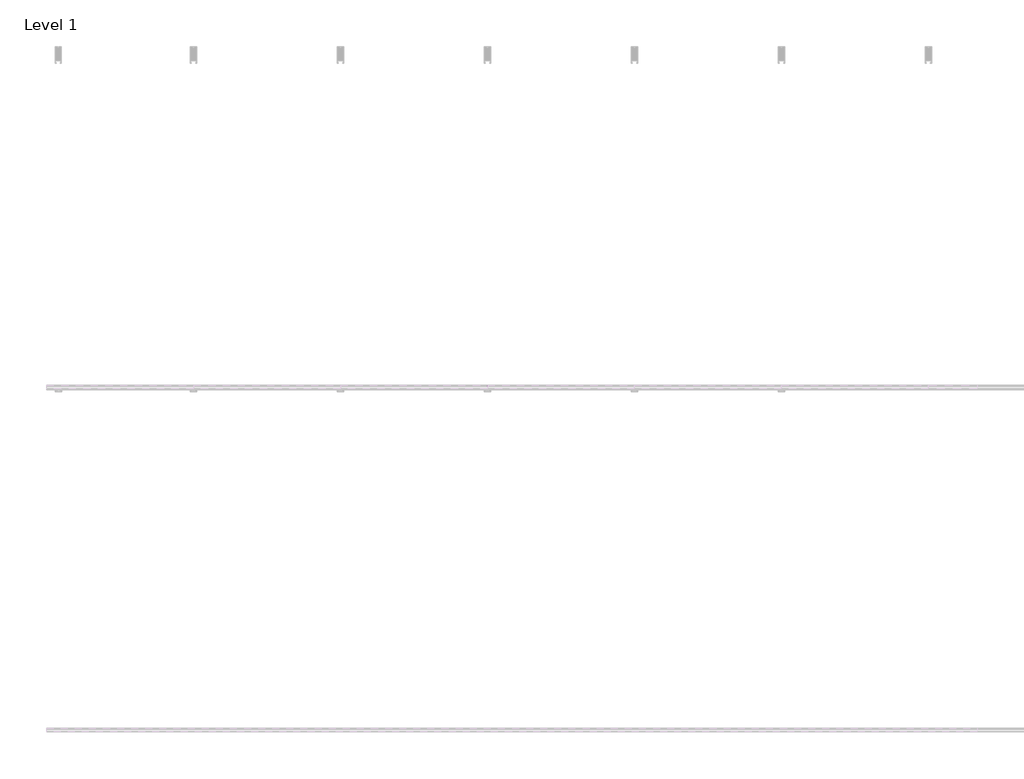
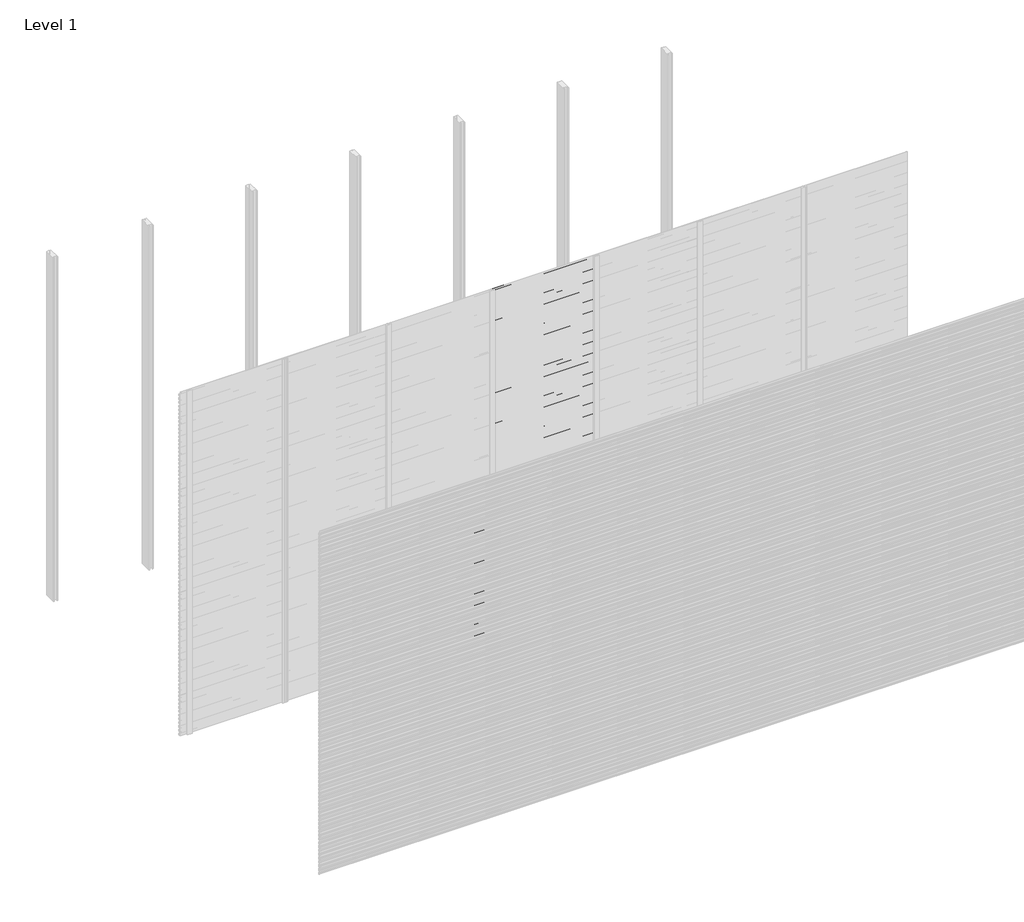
# One storey, part 55 of 96: 77 proxies.
"""IFC4 building model written with IfcOpenShell, lengths in millimetres."""

import ifcopenshell
import ifcopenshell.guid

model = None  # the IFC model being written
_history = None  # IfcOwnerHistory: only IFC2X3 demands one
_inside = {}  # id of a spatial element -> (the spatial element, [elements in it])
_under = {}  # id of a project, library or spatial element -> (it, [spatial elements below it])
_declared = {}  # id of a project -> (the project, [libraries it declares])
_typed = {}  # id of a type object -> (the type object, [elements of that type])
_made_of = {}  # id of a material, layer set ... -> (it, [elements and type objects made of it])


def new_model(schema):
    """Start an empty IFC model of exactly this schema.

    Asked for "IFC4X3", IfcOpenShell would pick the latest addendum, in which some entities
    have other attributes; the version numbers below select the first issue.
    IFC2X3 requires an IfcOwnerHistory on every rooted entity: one is made here for all.
    """
    global model, _history
    if schema == "IFC4X3":
        model = ifcopenshell.file(schema_version=(4, 3, 0, 0))
    else:
        model = ifcopenshell.file(schema=schema)
    _inside.clear()
    _under.clear()
    _declared.clear()
    _typed.clear()
    _made_of.clear()
    _history = None
    if model.schema == "IFC2X3":
        org = make("IfcOrganization", Name="unknown")
        user = make(
            "IfcPersonAndOrganization",
            ThePerson=make("IfcPerson", FamilyName="unknown"),
            TheOrganization=org,
        )
        app = make(
            "IfcApplication",
            ApplicationDeveloper=org,
            Version="unknown",
            ApplicationFullName="unknown",
            ApplicationIdentifier="unknown",
        )
        _history = make(
            "IfcOwnerHistory",
            OwningUser=user,
            OwningApplication=app,
            ChangeAction="ADDED",
            CreationDate=0,
        )
    return model


def make(cls, **values):
    """One entity of the class cls with the attributes given. An attribute that is None is left unset."""
    return model.create_entity(
        cls, **{name: value for name, value in values.items() if value is not None}
    )


def rooted(cls, **values):
    """An entity with a GlobalId (a new one), such as an element, a storey or a relation."""
    return make(cls, GlobalId=ifcopenshell.guid.new(), OwnerHistory=_history, **values)


def si_unit(unit_type, name, prefix=None):
    """IfcSIUnit, for example si_unit("LENGTHUNIT", "METRE", prefix="MILLI")."""
    return make("IfcSIUnit", UnitType=unit_type, Prefix=prefix, Name=name)


def assignment(units):
    """IfcUnitAssignment: the units of a project."""
    return None if units is None else make("IfcUnitAssignment", Units=units)


def point(xyz):
    """IfcCartesianPoint."""
    return None if xyz is None else make("IfcCartesianPoint", Coordinates=xyz)


def direction(xyz):
    """IfcDirection."""
    return None if xyz is None else make("IfcDirection", DirectionRatios=xyz)


def frame(location, z_axis=None, x_axis=None):
    """IfcAxis2Placement3D, a coordinate frame: its origin and axes. An axis left out is left unset."""
    return make(
        "IfcAxis2Placement3D",
        Location=point(location),
        Axis=direction(z_axis),
        RefDirection=direction(x_axis),
    )


def origin():
    """The frame at (0, 0, 0) with its axes left unset."""
    return frame((0.0, 0.0, 0.0))


def place(relative_to, where):
    """IfcLocalPlacement: puts the frame where relative to a parent placement (None: the world)."""
    return make(
        "IfcLocalPlacement", PlacementRelTo=relative_to, RelativePlacement=where
    )


def context(
    kind, dimensions, precision=None, world=None, true_north=None, identifier=None
):
    """IfcGeometricRepresentationContext, for example the 3D "Model" context."""
    return make(
        "IfcGeometricRepresentationContext",
        ContextIdentifier=identifier,
        ContextType=kind,
        CoordinateSpaceDimension=dimensions,
        Precision=precision,
        WorldCoordinateSystem=world,
        TrueNorth=true_north,
    )


def project(units=None, contexts=None):
    """IfcProject with its units and contexts."""
    return rooted(
        "IfcProject",
        Name="project",
        RepresentationContexts=contexts,
        UnitsInContext=assignment(units),
    )


def spatial(cls, under=None, at=None, **own):
    """A site, building, storey or space (cls), placed at a placement, below another one or the project."""
    s = rooted(cls, ObjectPlacement=at, **own)
    if under is not None:
        _under.setdefault(under.id(), (under, []))[1].append(s)
    return s


def polyline(points):
    """IfcPolyline through the points."""
    return make("IfcPolyline", Points=[point(p) for p in points])


def outline(outer, holes=None, kind="AREA"):
    """IfcArbitraryClosedProfileDef: a profile drawn as a closed curve; with holes, ...WithVoids."""
    if holes is None:
        return make("IfcArbitraryClosedProfileDef", ProfileType=kind, OuterCurve=outer)
    return make(
        "IfcArbitraryProfileDefWithVoids",
        ProfileType=kind,
        OuterCurve=outer,
        InnerCurves=holes,
    )


def extrude(swept, where, along, depth):
    """IfcExtrudedAreaSolid: the profile swept, set in the frame where, extruded along a direction by depth."""
    return make(
        "IfcExtrudedAreaSolid",
        SweptArea=swept,
        Position=where,
        ExtrudedDirection=direction(along),
        Depth=depth,
    )


def shape(context_of_items, identifier, shape_type, items):
    """IfcShapeRepresentation: the items that make up one representation, for example the "Body"."""
    return make(
        "IfcShapeRepresentation",
        ContextOfItems=context_of_items,
        RepresentationIdentifier=identifier,
        RepresentationType=shape_type,
        Items=items,
    )


def made_of(thing, what):
    """Note that an element or type object is made of a material, layer set ...; save() writes the relation."""
    if what is not None:
        _made_of.setdefault(what.id(), (what, []))[1].append(thing)
    return thing


def element(
    cls,
    number,
    at=None,
    inside=None,
    cuts=None,
    type_object=None,
    material=None,
    context=None,
    identifier="Body",
    shape_type=None,
    held_by="IfcProductDefinitionShape",
    body=None,
    shapes=None,
    **own,
):
    """One element of the class cls, such as IfcWall. Its Tag is "e" and its number.

    at: its placement. inside: the storey or other place that contains it. cuts: it is an
    opening in that element (IfcRelVoidsElement). A single representation is given by context,
    identifier, shape_type and body (its items); several are given by shapes. held_by: the class
    of the entity that holds the representations. save() writes the other relations.
    """
    e = rooted(cls, Tag="e%d" % number, ObjectPlacement=at, **own)
    if body is not None:
        shapes = [shape(context, identifier, shape_type, body)]
    if shapes is not None:
        e.Representation = make(held_by, Representations=shapes)
    if inside is not None:
        _inside.setdefault(inside.id(), (inside, []))[1].append(e)
    if cuts is not None:
        rooted(
            "IfcRelVoidsElement", RelatingBuildingElement=cuts, RelatedOpeningElement=e
        )
    if type_object is not None:
        _typed.setdefault(type_object.id(), (type_object, []))[1].append(e)
    return made_of(e, material)


def aggregate(whole, parts):
    """IfcRelAggregates: a whole, such as a stair, and the parts it consists of."""
    return rooted("IfcRelAggregates", RelatingObject=whole, RelatedObjects=parts)


def save(model, path):
    """Write the relations noted so far, then the file.

    IfcRelAggregates (storeys below a building ...), IfcRelContainedInSpatialStructure (elements
    in a storey), IfcRelDefinesByType, IfcRelAssociatesMaterial and IfcRelDeclares: one each for
    every whole, place, type object, material and project.
    """
    for whole, parts in _under.values():
        aggregate(whole, parts)
    for where, things in _inside.values():
        rooted(
            "IfcRelContainedInSpatialStructure",
            RelatedElements=things,
            RelatingStructure=where,
        )
    for kind, things in _typed.values():
        rooted("IfcRelDefinesByType", RelatedObjects=things, RelatingType=kind)
    for what, things in _made_of.values():
        rooted("IfcRelAssociatesMaterial", RelatedObjects=things, RelatingMaterial=what)
    for by, libraries in _declared.values():
        rooted("IfcRelDeclares", RelatingContext=by, RelatedDefinitions=libraries)
    model.write(path)


model = new_model("IFC4")

# Units and contexts
model_context = context("Model", 3, world=origin())
ifc_project = project(units=[si_unit("LENGTHUNIT", "METRE", prefix="MILLI")], contexts=[model_context])

# Site, building, storey
site = spatial("IfcSite", under=ifc_project)
building = spatial("IfcBuilding", under=site)
storey = spatial("IfcBuildingStorey", under=building, Name="Level 1", Elevation=0.0)

# Proxies
placement = place(None, origin())
element("IfcBuildingElementProxy", 1, Name="Wall Sweeps", at=placement, inside=storey, context=model_context, shape_type="SweptSolid", body=[
    extrude(outline(polyline([(-23977.6, 907.1655033), (-23977.6, 892.8779188), (-23982.4114965, 890.1), (-23982.4114965, 891.3701706), (-23978.85, 893.4264016), (-23978.85, 906.4437382), (-23998.0, 917.5000799), (-23998.0, 932.4), (-23996.75, 932.4), (-23996.75, 918.2217609), (-23977.6, 907.1655033)])), frame((1714.2857143, 0.0, 0.0), z_axis=(1.0, 0.0, 0.0), x_axis=(0.0, 1.0, 0.0)), (0.0, 0.0, 1.0), 857.1428571),
])
element("IfcBuildingElementProxy", 2, Name="Wall Sweeps", at=placement, inside=storey, context=model_context, shape_type="SweptSolid", body=[
    extrude(outline(polyline([(-23977.6, 873.8655033), (-23977.6, 859.5779188), (-23982.4114965, 856.8), (-23982.4114965, 858.0701706), (-23978.85, 860.1264016), (-23978.85, 873.1437382), (-23998.0, 884.2000799), (-23998.0, 899.1), (-23996.75, 899.1), (-23996.75, 884.9217609), (-23977.6, 873.8655033)])), frame((1714.2857143, 0.0, 0.0), z_axis=(1.0, 0.0, 0.0), x_axis=(0.0, 1.0, 0.0)), (0.0, 0.0, 1.0), 857.1428571),
])
element("IfcBuildingElementProxy", 3, Name="Wall Sweeps", at=placement, inside=storey, context=model_context, shape_type="SweptSolid", body=[
    extrude(outline(polyline([(-23977.6, 840.5655033), (-23977.6, 826.2779188), (-23982.4114965, 823.5), (-23982.4114965, 824.7701706), (-23978.85, 826.8264016), (-23978.85, 839.8437382), (-23998.0, 850.9000799), (-23998.0, 865.8), (-23996.75, 865.8), (-23996.75, 851.6217609), (-23977.6, 840.5655033)])), frame((1714.2857143, 0.0, 0.0), z_axis=(1.0, 0.0, 0.0), x_axis=(0.0, 1.0, 0.0)), (0.0, 0.0, 1.0), 857.1428571),
])
element("IfcBuildingElementProxy", 4, Name="Wall Sweeps", at=placement, inside=storey, context=model_context, shape_type="SweptSolid", body=[
    extrude(outline(polyline([(-23977.6, 807.2655033), (-23977.6, 792.9779188), (-23982.4114965, 790.2), (-23982.4114965, 791.4701706), (-23978.85, 793.5264016), (-23978.85, 806.5437382), (-23998.0, 817.6000799), (-23998.0, 832.5), (-23996.75, 832.5), (-23996.75, 818.3217609), (-23977.6, 807.2655033)])), frame((1714.2857143, 0.0, 0.0), z_axis=(1.0, 0.0, 0.0), x_axis=(0.0, 1.0, 0.0)), (0.0, 0.0, 1.0), 857.1428571),
])
element("IfcBuildingElementProxy", 5, Name="Wall Sweeps", at=placement, inside=storey, context=model_context, shape_type="SweptSolid", body=[
    extrude(outline(polyline([(-23977.6, 773.9655033), (-23977.6, 759.6779188), (-23982.4114965, 756.9), (-23982.4114965, 758.1701706), (-23978.85, 760.2264016), (-23978.85, 773.2437382), (-23998.0, 784.3000799), (-23998.0, 799.2), (-23996.75, 799.2), (-23996.75, 785.0217609), (-23977.6, 773.9655033)])), frame((1714.2857143, 0.0, 0.0), z_axis=(1.0, 0.0, 0.0), x_axis=(0.0, 1.0, 0.0)), (0.0, 0.0, 1.0), 857.1428571),
])
element("IfcBuildingElementProxy", 6, Name="Wall Sweeps", at=placement, inside=storey, context=model_context, shape_type="SweptSolid", body=[
    extrude(outline(polyline([(-23977.6, 740.6655033), (-23977.6, 726.3779188), (-23982.4114965, 723.6), (-23982.4114965, 724.8701706), (-23978.85, 726.9264016), (-23978.85, 739.9437382), (-23998.0, 751.0000799), (-23998.0, 765.9), (-23996.75, 765.9), (-23996.75, 751.7217609), (-23977.6, 740.6655033)])), frame((1714.2857143, 0.0, 0.0), z_axis=(1.0, 0.0, 0.0), x_axis=(0.0, 1.0, 0.0)), (0.0, 0.0, 1.0), 857.1428571),
])
element("IfcBuildingElementProxy", 7, Name="Wall Sweeps", at=placement, inside=storey, context=model_context, shape_type="SweptSolid", body=[
    extrude(outline(polyline([(-23977.6, 707.3655033), (-23977.6, 693.0779188), (-23982.4114965, 690.3), (-23982.4114965, 691.5701706), (-23978.85, 693.6264016), (-23978.85, 706.6437382), (-23998.0, 717.7000799), (-23998.0, 732.6), (-23996.75, 732.6), (-23996.75, 718.4217609), (-23977.6, 707.3655033)])), frame((1714.2857143, 0.0, 0.0), z_axis=(1.0, 0.0, 0.0), x_axis=(0.0, 1.0, 0.0)), (0.0, 0.0, 1.0), 857.1428571),
])
element("IfcBuildingElementProxy", 8, Name="Wall Sweeps", at=placement, inside=storey, context=model_context, shape_type="SweptSolid", body=[
    extrude(outline(polyline([(-23977.6, 674.0655033), (-23977.6, 659.7779188), (-23982.4114965, 657.0), (-23982.4114965, 658.2701706), (-23978.85, 660.3264016), (-23978.85, 673.3437382), (-23998.0, 684.4000799), (-23998.0, 699.3), (-23996.75, 699.3), (-23996.75, 685.1217609), (-23977.6, 674.0655033)])), frame((1714.2857143, 0.0, 0.0), z_axis=(1.0, 0.0, 0.0), x_axis=(0.0, 1.0, 0.0)), (0.0, 0.0, 1.0), 857.1428571),
])
element("IfcBuildingElementProxy", 9, Name="Wall Sweeps", at=placement, inside=storey, context=model_context, shape_type="SweptSolid", body=[
    extrude(outline(polyline([(-23977.6, 640.7655033), (-23977.6, 626.4779188), (-23982.4114965, 623.7), (-23982.4114965, 624.9701706), (-23978.85, 627.0264016), (-23978.85, 640.0437382), (-23998.0, 651.1000799), (-23998.0, 666.0), (-23996.75, 666.0), (-23996.75, 651.8217609), (-23977.6, 640.7655033)])), frame((1714.2857143, 0.0, 0.0), z_axis=(1.0, 0.0, 0.0), x_axis=(0.0, 1.0, 0.0)), (0.0, 0.0, 1.0), 857.1428571),
])
element("IfcBuildingElementProxy", 10, Name="Wall Sweeps", at=placement, inside=storey, context=model_context, shape_type="SweptSolid", body=[
    extrude(outline(polyline([(-23977.6, 607.4655033), (-23977.6, 593.1779188), (-23982.4114965, 590.4), (-23982.4114965, 591.6701706), (-23978.85, 593.7264016), (-23978.85, 606.7437382), (-23998.0, 617.8000799), (-23998.0, 632.7), (-23996.75, 632.7), (-23996.75, 618.5217609), (-23977.6, 607.4655033)])), frame((1714.2857143, 0.0, 0.0), z_axis=(1.0, 0.0, 0.0), x_axis=(0.0, 1.0, 0.0)), (0.0, 0.0, 1.0), 857.1428571),
])
element("IfcBuildingElementProxy", 11, Name="Wall Sweeps", at=placement, inside=storey, context=model_context, shape_type="SweptSolid", body=[
    extrude(outline(polyline([(-23977.6, 574.1655033), (-23977.6, 559.8779188), (-23982.4114965, 557.1), (-23982.4114965, 558.3701706), (-23978.85, 560.4264016), (-23978.85, 573.4437382), (-23998.0, 584.5000799), (-23998.0, 599.4), (-23996.75, 599.4), (-23996.75, 585.2217609), (-23977.6, 574.1655033)])), frame((1714.2857143, 0.0, 0.0), z_axis=(1.0, 0.0, 0.0), x_axis=(0.0, 1.0, 0.0)), (0.0, 0.0, 1.0), 857.1428571),
])
element("IfcBuildingElementProxy", 12, Name="Wall Sweeps", at=placement, inside=storey, context=model_context, shape_type="SweptSolid", body=[
    extrude(outline(polyline([(-23977.6, 540.8655033), (-23977.6, 526.5779188), (-23982.4114965, 523.8), (-23982.4114965, 525.0701706), (-23978.85, 527.1264016), (-23978.85, 540.1437382), (-23998.0, 551.2000799), (-23998.0, 566.1), (-23996.75, 566.1), (-23996.75, 551.9217609), (-23977.6, 540.8655033)])), frame((1714.2857143, 0.0, 0.0), z_axis=(1.0, 0.0, 0.0), x_axis=(0.0, 1.0, 0.0)), (0.0, 0.0, 1.0), 857.1428571),
])
element("IfcBuildingElementProxy", 13, Name="Wall Sweeps", at=placement, inside=storey, context=model_context, shape_type="SweptSolid", body=[
    extrude(outline(polyline([(-23977.6, 507.5655033), (-23977.6, 493.2779188), (-23982.4114965, 490.5), (-23982.4114965, 491.7701706), (-23978.85, 493.8264016), (-23978.85, 506.8437382), (-23998.0, 517.9000799), (-23998.0, 532.8), (-23996.75, 532.8), (-23996.75, 518.6217609), (-23977.6, 507.5655033)])), frame((1714.2857143, 0.0, 0.0), z_axis=(1.0, 0.0, 0.0), x_axis=(0.0, 1.0, 0.0)), (0.0, 0.0, 1.0), 857.1428571),
])
element("IfcBuildingElementProxy", 14, Name="Wall Sweeps", at=placement, inside=storey, context=model_context, shape_type="SweptSolid", body=[
    extrude(outline(polyline([(-23977.6, 474.2655033), (-23977.6, 459.9779188), (-23982.4114965, 457.2), (-23982.4114965, 458.4701706), (-23978.85, 460.5264016), (-23978.85, 473.5437382), (-23998.0, 484.6000799), (-23998.0, 499.5), (-23996.75, 499.5), (-23996.75, 485.3217609), (-23977.6, 474.2655033)])), frame((1714.2857143, 0.0, 0.0), z_axis=(1.0, 0.0, 0.0), x_axis=(0.0, 1.0, 0.0)), (0.0, 0.0, 1.0), 857.1428571),
])
element("IfcBuildingElementProxy", 15, Name="Wall Sweeps", at=placement, inside=storey, context=model_context, shape_type="SweptSolid", body=[
    extrude(outline(polyline([(-23977.6, 440.9655033), (-23977.6, 426.6779188), (-23982.4114965, 423.9), (-23982.4114965, 425.1701706), (-23978.85, 427.2264016), (-23978.85, 440.2437382), (-23998.0, 451.3000799), (-23998.0, 466.2), (-23996.75, 466.2), (-23996.75, 452.0217609), (-23977.6, 440.9655033)])), frame((1714.2857143, 0.0, 0.0), z_axis=(1.0, 0.0, 0.0), x_axis=(0.0, 1.0, 0.0)), (0.0, 0.0, 1.0), 857.1428571),
])
element("IfcBuildingElementProxy", 16, Name="Wall Sweeps", at=placement, inside=storey, context=model_context, shape_type="SweptSolid", body=[
    extrude(outline(polyline([(-23977.6, 407.6655033), (-23977.6, 393.3779188), (-23982.4114965, 390.6), (-23982.4114965, 391.8701706), (-23978.85, 393.9264016), (-23978.85, 406.9437382), (-23998.0, 418.0000799), (-23998.0, 432.9), (-23996.75, 432.9), (-23996.75, 418.7217609), (-23977.6, 407.6655033)])), frame((1714.2857143, 0.0, 0.0), z_axis=(1.0, 0.0, 0.0), x_axis=(0.0, 1.0, 0.0)), (0.0, 0.0, 1.0), 857.1428571),
])
element("IfcBuildingElementProxy", 17, Name="Wall Sweeps", at=placement, inside=storey, context=model_context, shape_type="SweptSolid", body=[
    extrude(outline(polyline([(-23977.6, 374.3655033), (-23977.6, 360.0779188), (-23982.4114965, 357.3), (-23982.4114965, 358.5701706), (-23978.85, 360.6264016), (-23978.85, 373.6437382), (-23998.0, 384.7000799), (-23998.0, 399.6), (-23996.75, 399.6), (-23996.75, 385.4217609), (-23977.6, 374.3655033)])), frame((1714.2857143, 0.0, 0.0), z_axis=(1.0, 0.0, 0.0), x_axis=(0.0, 1.0, 0.0)), (0.0, 0.0, 1.0), 857.1428571),
])
element("IfcBuildingElementProxy", 18, Name="Wall Sweeps", at=placement, inside=storey, context=model_context, shape_type="SweptSolid", body=[
    extrude(outline(polyline([(-23977.6, 341.0655033), (-23977.6, 326.7779188), (-23982.4114965, 324.0), (-23982.4114965, 325.2701706), (-23978.85, 327.3264016), (-23978.85, 340.3437382), (-23998.0, 351.4000799), (-23998.0, 366.3), (-23996.75, 366.3), (-23996.75, 352.1217609), (-23977.6, 341.0655033)])), frame((1714.2857143, 0.0, 0.0), z_axis=(1.0, 0.0, 0.0), x_axis=(0.0, 1.0, 0.0)), (0.0, 0.0, 1.0), 857.1428571),
])
element("IfcBuildingElementProxy", 19, Name="Wall Sweeps", at=placement, inside=storey, context=model_context, shape_type="SweptSolid", body=[
    extrude(outline(polyline([(-23977.6, 307.7655033), (-23977.6, 293.4779188), (-23982.4114965, 290.7), (-23982.4114965, 291.9701706), (-23978.85, 294.0264016), (-23978.85, 307.0437382), (-23998.0, 318.1000799), (-23998.0, 333.0), (-23996.75, 333.0), (-23996.75, 318.8217609), (-23977.6, 307.7655033)])), frame((1714.2857143, 0.0, 0.0), z_axis=(1.0, 0.0, 0.0), x_axis=(0.0, 1.0, 0.0)), (0.0, 0.0, 1.0), 857.1428571),
])
element("IfcBuildingElementProxy", 20, Name="Wall Sweeps", at=placement, inside=storey, context=model_context, shape_type="SweptSolid", body=[
    extrude(outline(polyline([(-23977.6, 274.4655033), (-23977.6, 260.1779188), (-23982.4114965, 257.4), (-23982.4114965, 258.6701706), (-23978.85, 260.7264016), (-23978.85, 273.7437382), (-23998.0, 284.8000799), (-23998.0, 299.7), (-23996.75, 299.7), (-23996.75, 285.5217609), (-23977.6, 274.4655033)])), frame((1714.2857143, 0.0, 0.0), z_axis=(1.0, 0.0, 0.0), x_axis=(0.0, 1.0, 0.0)), (0.0, 0.0, 1.0), 857.1428571),
])
element("IfcBuildingElementProxy", 21, Name="Wall Sweeps", at=placement, inside=storey, context=model_context, shape_type="SweptSolid", body=[
    extrude(outline(polyline([(-23977.6, 241.1655033), (-23977.6, 226.8779188), (-23982.4114965, 224.1), (-23982.4114965, 225.3701706), (-23978.85, 227.4264016), (-23978.85, 240.4437382), (-23998.0, 251.5000799), (-23998.0, 266.4), (-23996.75, 266.4), (-23996.75, 252.2217609), (-23977.6, 241.1655033)])), frame((1714.2857143, 0.0, 0.0), z_axis=(1.0, 0.0, 0.0), x_axis=(0.0, 1.0, 0.0)), (0.0, 0.0, 1.0), 857.1428571),
])
element("IfcBuildingElementProxy", 22, Name="Wall Sweeps", at=placement, inside=storey, context=model_context, shape_type="SweptSolid", body=[
    extrude(outline(polyline([(-23977.6, 207.8655033), (-23977.6, 193.5779188), (-23982.4114965, 190.8), (-23982.4114965, 192.0701706), (-23978.85, 194.1264016), (-23978.85, 207.1437382), (-23998.0, 218.2000799), (-23998.0, 233.1), (-23996.75, 233.1), (-23996.75, 218.9217609), (-23977.6, 207.8655033)])), frame((1714.2857143, 0.0, 0.0), z_axis=(1.0, 0.0, 0.0), x_axis=(0.0, 1.0, 0.0)), (0.0, 0.0, 1.0), 857.1428571),
])
element("IfcBuildingElementProxy", 23, Name="Wall Sweeps", at=placement, inside=storey, context=model_context, shape_type="SweptSolid", body=[
    extrude(outline(polyline([(-23977.6, 174.5655033), (-23977.6, 160.2779188), (-23982.4114965, 157.5), (-23982.4114965, 158.7701706), (-23978.85, 160.8264016), (-23978.85, 173.8437382), (-23998.0, 184.9000799), (-23998.0, 199.8), (-23996.75, 199.8), (-23996.75, 185.6217609), (-23977.6, 174.5655033)])), frame((1714.2857143, 0.0, 0.0), z_axis=(1.0, 0.0, 0.0), x_axis=(0.0, 1.0, 0.0)), (0.0, 0.0, 1.0), 857.1428571),
])
element("IfcBuildingElementProxy", 24, Name="Wall Sweeps", at=placement, inside=storey, context=model_context, shape_type="SweptSolid", body=[
    extrude(outline(polyline([(-23977.6, 141.2655033), (-23977.6, 126.9779188), (-23982.4114965, 124.2), (-23982.4114965, 125.4701706), (-23978.85, 127.5264016), (-23978.85, 140.5437382), (-23998.0, 151.6000799), (-23998.0, 166.5), (-23996.75, 166.5), (-23996.75, 152.3217609), (-23977.6, 141.2655033)])), frame((1714.2857143, 0.0, 0.0), z_axis=(1.0, 0.0, 0.0), x_axis=(0.0, 1.0, 0.0)), (0.0, 0.0, 1.0), 857.1428571),
])
element("IfcBuildingElementProxy", 25, Name="Wall Sweeps", at=placement, inside=storey, context=model_context, shape_type="SweptSolid", body=[
    extrude(outline(polyline([(-23977.6, 107.9655033), (-23977.6, 93.6779188), (-23982.4114965, 90.9), (-23982.4114965, 92.1701706), (-23978.85, 94.2264016), (-23978.85, 107.2437382), (-23998.0, 118.3000799), (-23998.0, 133.2), (-23996.75, 133.2), (-23996.75, 119.0217609), (-23977.6, 107.9655033)])), frame((1714.2857143, 0.0, 0.0), z_axis=(1.0, 0.0, 0.0), x_axis=(0.0, 1.0, 0.0)), (0.0, 0.0, 1.0), 857.1428571),
])
element("IfcBuildingElementProxy", 26, Name="Wall Sweeps", at=placement, inside=storey, context=model_context, shape_type="SweptSolid", body=[
    extrude(outline(polyline([(-23977.6, 74.6655033), (-23977.6, 60.3779188), (-23982.4114965, 57.6), (-23982.4114965, 58.8701706), (-23978.85, 60.9264016), (-23978.85, 73.9437382), (-23998.0, 85.0000799), (-23998.0, 99.9), (-23996.75, 99.9), (-23996.75, 85.7217609), (-23977.6, 74.6655033)])), frame((1714.2857143, 0.0, 0.0), z_axis=(1.0, 0.0, 0.0), x_axis=(0.0, 1.0, 0.0)), (0.0, 0.0, 1.0), 857.1428571),
])
element("IfcBuildingElementProxy", 27, Name="Wall Sweeps", at=placement, inside=storey, context=model_context, shape_type="SweptSolid", body=[
    extrude(outline(polyline([(-23977.6, 41.3655033), (-23977.6, 27.0779188), (-23982.4114965, 24.3), (-23982.4114965, 25.5701706), (-23978.85, 27.6264016), (-23978.85, 40.6437382), (-23998.0, 51.7000799), (-23998.0, 66.6), (-23996.75, 66.6), (-23996.75, 52.4217609), (-23977.6, 41.3655033)])), frame((1714.2857143, 0.0, 0.0), z_axis=(1.0, 0.0, 0.0), x_axis=(0.0, 1.0, 0.0)), (0.0, 0.0, 1.0), 857.1428571),
])
element("IfcBuildingElementProxy", 28, Name="Wall Sweeps", at=placement, inside=storey, context=model_context, shape_type="SweptSolid", body=[
    extrude(outline(polyline([(-23977.6, 8.0655033), (-23977.6, -6.2220812), (-23982.4114965, -9.0), (-23982.4114965, -7.7298294), (-23978.85, -5.6735984), (-23978.85, 7.3437382), (-23998.0, 18.4000799), (-23998.0, 33.3), (-23996.75, 33.3), (-23996.75, 19.1217609), (-23977.6, 8.0655033)])), frame((1714.2857143, 0.0, 0.0), z_axis=(1.0, 0.0, 0.0), x_axis=(0.0, 1.0, 0.0)), (0.0, 0.0, 1.0), 857.1428571),
])
element("IfcBuildingElementProxy", 29, Name="Wall Sweeps", at=placement, inside=storey, context=model_context, shape_type="SweptSolid", body=[
    extrude(outline(polyline([(-23977.6, 2971.7655033), (-23977.6, 2957.4779188), (-23982.4114965, 2954.7), (-23982.4114965, 2955.9701706), (-23978.85, 2958.0264016), (-23978.85, 2971.0437382), (-23998.0, 2982.1000799), (-23998.0, 2997.0), (-23996.75, 2997.0), (-23996.75, 2982.8217609), (-23977.6, 2971.7655033)])), frame((2571.4285714, 0.0, 0.0), z_axis=(1.0, 0.0, 0.0), x_axis=(0.0, 1.0, 0.0)), (0.0, 0.0, 1.0), 857.1428571),
])
element("IfcBuildingElementProxy", 30, Name="Wall Sweeps", at=placement, inside=storey, context=model_context, shape_type="SweptSolid", body=[
    extrude(outline(polyline([(-23977.6, 2938.4655033), (-23977.6, 2924.1779188), (-23982.4114965, 2921.4), (-23982.4114965, 2922.6701706), (-23978.85, 2924.7264016), (-23978.85, 2937.7437382), (-23998.0, 2948.8000799), (-23998.0, 2963.7), (-23996.75, 2963.7), (-23996.75, 2949.5217609), (-23977.6, 2938.4655033)])), frame((2571.4285714, 0.0, 0.0), z_axis=(1.0, 0.0, 0.0), x_axis=(0.0, 1.0, 0.0)), (0.0, 0.0, 1.0), 857.1428571),
])
element("IfcBuildingElementProxy", 31, Name="Wall Sweeps", at=placement, inside=storey, context=model_context, shape_type="SweptSolid", body=[
    extrude(outline(polyline([(-23977.6, 2905.1655033), (-23977.6, 2890.8779188), (-23982.4114965, 2888.1), (-23982.4114965, 2889.3701706), (-23978.85, 2891.4264016), (-23978.85, 2904.4437382), (-23998.0, 2915.5000799), (-23998.0, 2930.4), (-23996.75, 2930.4), (-23996.75, 2916.2217609), (-23977.6, 2905.1655033)])), frame((2571.4285714, 0.0, 0.0), z_axis=(1.0, 0.0, 0.0), x_axis=(0.0, 1.0, 0.0)), (0.0, 0.0, 1.0), 857.1428571),
])
element("IfcBuildingElementProxy", 32, Name="Wall Sweeps", at=placement, inside=storey, context=model_context, shape_type="SweptSolid", body=[
    extrude(outline(polyline([(-23977.6, 2871.8655033), (-23977.6, 2857.5779188), (-23982.4114965, 2854.8), (-23982.4114965, 2856.0701706), (-23978.85, 2858.1264016), (-23978.85, 2871.1437382), (-23998.0, 2882.2000799), (-23998.0, 2897.1), (-23996.75, 2897.1), (-23996.75, 2882.9217609), (-23977.6, 2871.8655033)])), frame((2571.4285714, 0.0, 0.0), z_axis=(1.0, 0.0, 0.0), x_axis=(0.0, 1.0, 0.0)), (0.0, 0.0, 1.0), 857.1428571),
])
element("IfcBuildingElementProxy", 33, Name="Wall Sweeps", at=placement, inside=storey, context=model_context, shape_type="SweptSolid", body=[
    extrude(outline(polyline([(-23977.6, 2838.5655033), (-23977.6, 2824.2779188), (-23982.4114965, 2821.5), (-23982.4114965, 2822.7701706), (-23978.85, 2824.8264016), (-23978.85, 2837.8437382), (-23998.0, 2848.9000799), (-23998.0, 2863.8), (-23996.75, 2863.8), (-23996.75, 2849.6217609), (-23977.6, 2838.5655033)])), frame((2571.4285714, 0.0, 0.0), z_axis=(1.0, 0.0, 0.0), x_axis=(0.0, 1.0, 0.0)), (0.0, 0.0, 1.0), 857.1428571),
])
element("IfcBuildingElementProxy", 34, Name="Wall Sweeps", at=placement, inside=storey, context=model_context, shape_type="SweptSolid", body=[
    extrude(outline(polyline([(-23977.6, 2805.2655033), (-23977.6, 2790.9779188), (-23982.4114965, 2788.2), (-23982.4114965, 2789.4701706), (-23978.85, 2791.5264016), (-23978.85, 2804.5437382), (-23998.0, 2815.6000799), (-23998.0, 2830.5), (-23996.75, 2830.5), (-23996.75, 2816.3217609), (-23977.6, 2805.2655033)])), frame((2571.4285714, 0.0, 0.0), z_axis=(1.0, 0.0, 0.0), x_axis=(0.0, 1.0, 0.0)), (0.0, 0.0, 1.0), 857.1428571),
])
element("IfcBuildingElementProxy", 35, Name="Wall Sweeps", at=placement, inside=storey, context=model_context, shape_type="SweptSolid", body=[
    extrude(outline(polyline([(-23977.6, 2771.9655033), (-23977.6, 2757.6779188), (-23982.4114965, 2754.9), (-23982.4114965, 2756.1701706), (-23978.85, 2758.2264016), (-23978.85, 2771.2437382), (-23998.0, 2782.3000799), (-23998.0, 2797.2), (-23996.75, 2797.2), (-23996.75, 2783.0217609), (-23977.6, 2771.9655033)])), frame((2571.4285714, 0.0, 0.0), z_axis=(1.0, 0.0, 0.0), x_axis=(0.0, 1.0, 0.0)), (0.0, 0.0, 1.0), 857.1428571),
])
element("IfcBuildingElementProxy", 36, Name="Wall Sweeps", at=placement, inside=storey, context=model_context, shape_type="SweptSolid", body=[
    extrude(outline(polyline([(-23977.6, 2738.6655033), (-23977.6, 2724.3779188), (-23982.4114965, 2721.6), (-23982.4114965, 2722.8701706), (-23978.85, 2724.9264016), (-23978.85, 2737.9437382), (-23998.0, 2749.0000799), (-23998.0, 2763.9), (-23996.75, 2763.9), (-23996.75, 2749.7217609), (-23977.6, 2738.6655033)])), frame((2571.4285714, 0.0, 0.0), z_axis=(1.0, 0.0, 0.0), x_axis=(0.0, 1.0, 0.0)), (0.0, 0.0, 1.0), 857.1428571),
])
element("IfcBuildingElementProxy", 37, Name="Wall Sweeps", at=placement, inside=storey, context=model_context, shape_type="SweptSolid", body=[
    extrude(outline(polyline([(-23977.6, 2705.3655033), (-23977.6, 2691.0779188), (-23982.4114965, 2688.3), (-23982.4114965, 2689.5701706), (-23978.85, 2691.6264016), (-23978.85, 2704.6437382), (-23998.0, 2715.7000799), (-23998.0, 2730.6), (-23996.75, 2730.6), (-23996.75, 2716.4217609), (-23977.6, 2705.3655033)])), frame((2571.4285714, 0.0, 0.0), z_axis=(1.0, 0.0, 0.0), x_axis=(0.0, 1.0, 0.0)), (0.0, 0.0, 1.0), 857.1428571),
])
element("IfcBuildingElementProxy", 38, Name="Wall Sweeps", at=placement, inside=storey, context=model_context, shape_type="SweptSolid", body=[
    extrude(outline(polyline([(-23977.6, 2672.0655033), (-23977.6, 2657.7779188), (-23982.4114965, 2655.0), (-23982.4114965, 2656.2701706), (-23978.85, 2658.3264016), (-23978.85, 2671.3437382), (-23998.0, 2682.4000799), (-23998.0, 2697.3), (-23996.75, 2697.3), (-23996.75, 2683.1217609), (-23977.6, 2672.0655033)])), frame((2571.4285714, 0.0, 0.0), z_axis=(1.0, 0.0, 0.0), x_axis=(0.0, 1.0, 0.0)), (0.0, 0.0, 1.0), 857.1428571),
])
element("IfcBuildingElementProxy", 39, Name="Wall Sweeps", at=placement, inside=storey, context=model_context, shape_type="SweptSolid", body=[
    extrude(outline(polyline([(-23977.6, 2638.7655033), (-23977.6, 2624.4779188), (-23982.4114965, 2621.7), (-23982.4114965, 2622.9701706), (-23978.85, 2625.0264016), (-23978.85, 2638.0437382), (-23998.0, 2649.1000799), (-23998.0, 2664.0), (-23996.75, 2664.0), (-23996.75, 2649.8217609), (-23977.6, 2638.7655033)])), frame((2571.4285714, 0.0, 0.0), z_axis=(1.0, 0.0, 0.0), x_axis=(0.0, 1.0, 0.0)), (0.0, 0.0, 1.0), 857.1428571),
])
element("IfcBuildingElementProxy", 40, Name="Wall Sweeps", at=placement, inside=storey, context=model_context, shape_type="SweptSolid", body=[
    extrude(outline(polyline([(-23977.6, 2605.4655033), (-23977.6, 2591.1779188), (-23982.4114965, 2588.4), (-23982.4114965, 2589.6701706), (-23978.85, 2591.7264016), (-23978.85, 2604.7437382), (-23998.0, 2615.8000799), (-23998.0, 2630.7), (-23996.75, 2630.7), (-23996.75, 2616.5217609), (-23977.6, 2605.4655033)])), frame((2571.4285714, 0.0, 0.0), z_axis=(1.0, 0.0, 0.0), x_axis=(0.0, 1.0, 0.0)), (0.0, 0.0, 1.0), 857.1428571),
])
element("IfcBuildingElementProxy", 41, Name="Wall Sweeps", at=placement, inside=storey, context=model_context, shape_type="SweptSolid", body=[
    extrude(outline(polyline([(-23977.6, 2572.1655033), (-23977.6, 2557.8779188), (-23982.4114965, 2555.1), (-23982.4114965, 2556.3701706), (-23978.85, 2558.4264016), (-23978.85, 2571.4437382), (-23998.0, 2582.5000799), (-23998.0, 2597.4), (-23996.75, 2597.4), (-23996.75, 2583.2217609), (-23977.6, 2572.1655033)])), frame((2571.4285714, 0.0, 0.0), z_axis=(1.0, 0.0, 0.0), x_axis=(0.0, 1.0, 0.0)), (0.0, 0.0, 1.0), 857.1428571),
])
element("IfcBuildingElementProxy", 42, Name="Wall Sweeps", at=placement, inside=storey, context=model_context, shape_type="SweptSolid", body=[
    extrude(outline(polyline([(-23977.6, 2538.8655033), (-23977.6, 2524.5779188), (-23982.4114965, 2521.8), (-23982.4114965, 2523.0701706), (-23978.85, 2525.1264016), (-23978.85, 2538.1437382), (-23998.0, 2549.2000799), (-23998.0, 2564.1), (-23996.75, 2564.1), (-23996.75, 2549.9217609), (-23977.6, 2538.8655033)])), frame((2571.4285714, 0.0, 0.0), z_axis=(1.0, 0.0, 0.0), x_axis=(0.0, 1.0, 0.0)), (0.0, 0.0, 1.0), 857.1428571),
])
element("IfcBuildingElementProxy", 43, Name="Wall Sweeps", at=placement, inside=storey, context=model_context, shape_type="SweptSolid", body=[
    extrude(outline(polyline([(-23977.6, 2505.5655033), (-23977.6, 2491.2779188), (-23982.4114965, 2488.5), (-23982.4114965, 2489.7701706), (-23978.85, 2491.8264016), (-23978.85, 2504.8437382), (-23998.0, 2515.9000799), (-23998.0, 2530.8), (-23996.75, 2530.8), (-23996.75, 2516.6217609), (-23977.6, 2505.5655033)])), frame((2571.4285714, 0.0, 0.0), z_axis=(1.0, 0.0, 0.0), x_axis=(0.0, 1.0, 0.0)), (0.0, 0.0, 1.0), 857.1428571),
])
element("IfcBuildingElementProxy", 44, Name="Wall Sweeps", at=placement, inside=storey, context=model_context, shape_type="SweptSolid", body=[
    extrude(outline(polyline([(-23977.6, 2472.2655033), (-23977.6, 2457.9779188), (-23982.4114965, 2455.2), (-23982.4114965, 2456.4701706), (-23978.85, 2458.5264016), (-23978.85, 2471.5437382), (-23998.0, 2482.6000799), (-23998.0, 2497.5), (-23996.75, 2497.5), (-23996.75, 2483.3217609), (-23977.6, 2472.2655033)])), frame((2571.4285714, 0.0, 0.0), z_axis=(1.0, 0.0, 0.0), x_axis=(0.0, 1.0, 0.0)), (0.0, 0.0, 1.0), 857.1428571),
])
element("IfcBuildingElementProxy", 45, Name="Wall Sweeps", at=placement, inside=storey, context=model_context, shape_type="SweptSolid", body=[
    extrude(outline(polyline([(-23977.6, 2438.9655033), (-23977.6, 2424.6779188), (-23982.4114965, 2421.9), (-23982.4114965, 2423.1701706), (-23978.85, 2425.2264016), (-23978.85, 2438.2437382), (-23998.0, 2449.3000799), (-23998.0, 2464.2), (-23996.75, 2464.2), (-23996.75, 2450.0217609), (-23977.6, 2438.9655033)])), frame((2571.4285714, 0.0, 0.0), z_axis=(1.0, 0.0, 0.0), x_axis=(0.0, 1.0, 0.0)), (0.0, 0.0, 1.0), 857.1428571),
])
element("IfcBuildingElementProxy", 46, Name="Wall Sweeps", at=placement, inside=storey, context=model_context, shape_type="SweptSolid", body=[
    extrude(outline(polyline([(-23977.6, 2405.6655033), (-23977.6, 2391.3779188), (-23982.4114965, 2388.6), (-23982.4114965, 2389.8701706), (-23978.85, 2391.9264016), (-23978.85, 2404.9437382), (-23998.0, 2416.0000799), (-23998.0, 2430.9), (-23996.75, 2430.9), (-23996.75, 2416.7217609), (-23977.6, 2405.6655033)])), frame((2571.4285714, 0.0, 0.0), z_axis=(1.0, 0.0, 0.0), x_axis=(0.0, 1.0, 0.0)), (0.0, 0.0, 1.0), 857.1428571),
])
element("IfcBuildingElementProxy", 47, Name="Wall Sweeps", at=placement, inside=storey, context=model_context, shape_type="SweptSolid", body=[
    extrude(outline(polyline([(-23977.6, 2372.3655033), (-23977.6, 2358.0779188), (-23982.4114965, 2355.3), (-23982.4114965, 2356.5701706), (-23978.85, 2358.6264016), (-23978.85, 2371.6437382), (-23998.0, 2382.7000799), (-23998.0, 2397.6), (-23996.75, 2397.6), (-23996.75, 2383.4217609), (-23977.6, 2372.3655033)])), frame((2571.4285714, 0.0, 0.0), z_axis=(1.0, 0.0, 0.0), x_axis=(0.0, 1.0, 0.0)), (0.0, 0.0, 1.0), 857.1428571),
])
element("IfcBuildingElementProxy", 48, Name="Wall Sweeps", at=placement, inside=storey, context=model_context, shape_type="SweptSolid", body=[
    extrude(outline(polyline([(-23977.6, 2339.0655033), (-23977.6, 2324.7779188), (-23982.4114965, 2322.0), (-23982.4114965, 2323.2701706), (-23978.85, 2325.3264016), (-23978.85, 2338.3437382), (-23998.0, 2349.4000799), (-23998.0, 2364.3), (-23996.75, 2364.3), (-23996.75, 2350.1217609), (-23977.6, 2339.0655033)])), frame((2571.4285714, 0.0, 0.0), z_axis=(1.0, 0.0, 0.0), x_axis=(0.0, 1.0, 0.0)), (0.0, 0.0, 1.0), 857.1428571),
])
element("IfcBuildingElementProxy", 49, Name="Wall Sweeps", at=placement, inside=storey, context=model_context, shape_type="SweptSolid", body=[
    extrude(outline(polyline([(-23977.6, 2305.7655033), (-23977.6, 2291.4779188), (-23982.4114965, 2288.7), (-23982.4114965, 2289.9701706), (-23978.85, 2292.0264016), (-23978.85, 2305.0437382), (-23998.0, 2316.1000799), (-23998.0, 2331.0), (-23996.75, 2331.0), (-23996.75, 2316.8217609), (-23977.6, 2305.7655033)])), frame((2571.4285714, 0.0, 0.0), z_axis=(1.0, 0.0, 0.0), x_axis=(0.0, 1.0, 0.0)), (0.0, 0.0, 1.0), 857.1428571),
])
element("IfcBuildingElementProxy", 50, Name="Wall Sweeps", at=placement, inside=storey, context=model_context, shape_type="SweptSolid", body=[
    extrude(outline(polyline([(-23977.6, 2272.4655033), (-23977.6, 2258.1779188), (-23982.4114965, 2255.4), (-23982.4114965, 2256.6701706), (-23978.85, 2258.7264016), (-23978.85, 2271.7437382), (-23998.0, 2282.8000799), (-23998.0, 2297.7), (-23996.75, 2297.7), (-23996.75, 2283.5217609), (-23977.6, 2272.4655033)])), frame((2571.4285714, 0.0, 0.0), z_axis=(1.0, 0.0, 0.0), x_axis=(0.0, 1.0, 0.0)), (0.0, 0.0, 1.0), 857.1428571),
])
element("IfcBuildingElementProxy", 51, Name="Wall Sweeps", at=placement, inside=storey, context=model_context, shape_type="SweptSolid", body=[
    extrude(outline(polyline([(-23977.6, 2239.1655033), (-23977.6, 2224.8779188), (-23982.4114965, 2222.1), (-23982.4114965, 2223.3701706), (-23978.85, 2225.4264016), (-23978.85, 2238.4437382), (-23998.0, 2249.5000799), (-23998.0, 2264.4), (-23996.75, 2264.4), (-23996.75, 2250.2217609), (-23977.6, 2239.1655033)])), frame((2571.4285714, 0.0, 0.0), z_axis=(1.0, 0.0, 0.0), x_axis=(0.0, 1.0, 0.0)), (0.0, 0.0, 1.0), 857.1428571),
])
element("IfcBuildingElementProxy", 52, Name="Wall Sweeps", at=placement, inside=storey, context=model_context, shape_type="SweptSolid", body=[
    extrude(outline(polyline([(-23977.6, 2205.8655033), (-23977.6, 2191.5779188), (-23982.4114965, 2188.8), (-23982.4114965, 2190.0701706), (-23978.85, 2192.1264016), (-23978.85, 2205.1437382), (-23998.0, 2216.2000799), (-23998.0, 2231.1), (-23996.75, 2231.1), (-23996.75, 2216.9217609), (-23977.6, 2205.8655033)])), frame((2571.4285714, 0.0, 0.0), z_axis=(1.0, 0.0, 0.0), x_axis=(0.0, 1.0, 0.0)), (0.0, 0.0, 1.0), 857.1428571),
])
element("IfcBuildingElementProxy", 53, Name="Wall Sweeps", at=placement, inside=storey, context=model_context, shape_type="SweptSolid", body=[
    extrude(outline(polyline([(-23977.6, 2172.5655033), (-23977.6, 2158.2779188), (-23982.4114965, 2155.5), (-23982.4114965, 2156.7701706), (-23978.85, 2158.8264016), (-23978.85, 2171.8437382), (-23998.0, 2182.9000799), (-23998.0, 2197.8), (-23996.75, 2197.8), (-23996.75, 2183.6217609), (-23977.6, 2172.5655033)])), frame((2571.4285714, 0.0, 0.0), z_axis=(1.0, 0.0, 0.0), x_axis=(0.0, 1.0, 0.0)), (0.0, 0.0, 1.0), 857.1428571),
])
element("IfcBuildingElementProxy", 54, Name="Wall Sweeps", at=placement, inside=storey, context=model_context, shape_type="SweptSolid", body=[
    extrude(outline(polyline([(-23977.6, 2139.2655033), (-23977.6, 2124.9779188), (-23982.4114965, 2122.2), (-23982.4114965, 2123.4701706), (-23978.85, 2125.5264016), (-23978.85, 2138.5437382), (-23998.0, 2149.6000799), (-23998.0, 2164.5), (-23996.75, 2164.5), (-23996.75, 2150.3217609), (-23977.6, 2139.2655033)])), frame((2571.4285714, 0.0, 0.0), z_axis=(1.0, 0.0, 0.0), x_axis=(0.0, 1.0, 0.0)), (0.0, 0.0, 1.0), 857.1428571),
])
element("IfcBuildingElementProxy", 55, Name="Wall Sweeps", at=placement, inside=storey, context=model_context, shape_type="SweptSolid", body=[
    extrude(outline(polyline([(-23977.6, 2105.9655033), (-23977.6, 2091.6779188), (-23982.4114965, 2088.9), (-23982.4114965, 2090.1701706), (-23978.85, 2092.2264016), (-23978.85, 2105.2437382), (-23998.0, 2116.3000799), (-23998.0, 2131.2), (-23996.75, 2131.2), (-23996.75, 2117.0217609), (-23977.6, 2105.9655033)])), frame((2571.4285714, 0.0, 0.0), z_axis=(1.0, 0.0, 0.0), x_axis=(0.0, 1.0, 0.0)), (0.0, 0.0, 1.0), 857.1428571),
])
element("IfcBuildingElementProxy", 56, Name="Wall Sweeps", at=placement, inside=storey, context=model_context, shape_type="SweptSolid", body=[
    extrude(outline(polyline([(-23977.6, 2072.6655033), (-23977.6, 2058.3779188), (-23982.4114965, 2055.6), (-23982.4114965, 2056.8701706), (-23978.85, 2058.9264016), (-23978.85, 2071.9437382), (-23998.0, 2083.0000799), (-23998.0, 2097.9), (-23996.75, 2097.9), (-23996.75, 2083.7217609), (-23977.6, 2072.6655033)])), frame((2571.4285714, 0.0, 0.0), z_axis=(1.0, 0.0, 0.0), x_axis=(0.0, 1.0, 0.0)), (0.0, 0.0, 1.0), 857.1428571),
])
element("IfcBuildingElementProxy", 57, Name="Wall Sweeps", at=placement, inside=storey, context=model_context, shape_type="SweptSolid", body=[
    extrude(outline(polyline([(-23977.6, 2039.3655033), (-23977.6, 2025.0779188), (-23982.4114965, 2022.3), (-23982.4114965, 2023.5701706), (-23978.85, 2025.6264016), (-23978.85, 2038.6437382), (-23998.0, 2049.7000799), (-23998.0, 2064.6), (-23996.75, 2064.6), (-23996.75, 2050.4217609), (-23977.6, 2039.3655033)])), frame((2571.4285714, 0.0, 0.0), z_axis=(1.0, 0.0, 0.0), x_axis=(0.0, 1.0, 0.0)), (0.0, 0.0, 1.0), 857.1428571),
])
element("IfcBuildingElementProxy", 58, Name="Wall Sweeps", at=placement, inside=storey, context=model_context, shape_type="SweptSolid", body=[
    extrude(outline(polyline([(-23977.6, 2006.0655033), (-23977.6, 1991.7779188), (-23982.4114965, 1989.0), (-23982.4114965, 1990.2701706), (-23978.85, 1992.3264016), (-23978.85, 2005.3437382), (-23998.0, 2016.4000799), (-23998.0, 2031.3), (-23996.75, 2031.3), (-23996.75, 2017.1217609), (-23977.6, 2006.0655033)])), frame((2571.4285714, 0.0, 0.0), z_axis=(1.0, 0.0, 0.0), x_axis=(0.0, 1.0, 0.0)), (0.0, 0.0, 1.0), 857.1428571),
])
element("IfcBuildingElementProxy", 59, Name="Wall Sweeps", at=placement, inside=storey, context=model_context, shape_type="SweptSolid", body=[
    extrude(outline(polyline([(-23977.6, 1972.7655033), (-23977.6, 1958.4779188), (-23982.4114965, 1955.7), (-23982.4114965, 1956.9701706), (-23978.85, 1959.0264016), (-23978.85, 1972.0437382), (-23998.0, 1983.1000799), (-23998.0, 1998.0), (-23996.75, 1998.0), (-23996.75, 1983.8217609), (-23977.6, 1972.7655033)])), frame((2571.4285714, 0.0, 0.0), z_axis=(1.0, 0.0, 0.0), x_axis=(0.0, 1.0, 0.0)), (0.0, 0.0, 1.0), 857.1428571),
])
element("IfcBuildingElementProxy", 60, Name="Wall Sweeps", at=placement, inside=storey, context=model_context, shape_type="SweptSolid", body=[
    extrude(outline(polyline([(-23977.6, 1939.4655033), (-23977.6, 1925.1779188), (-23982.4114965, 1922.4), (-23982.4114965, 1923.6701706), (-23978.85, 1925.7264016), (-23978.85, 1938.7437382), (-23998.0, 1949.8000799), (-23998.0, 1964.7), (-23996.75, 1964.7), (-23996.75, 1950.5217609), (-23977.6, 1939.4655033)])), frame((2571.4285714, 0.0, 0.0), z_axis=(1.0, 0.0, 0.0), x_axis=(0.0, 1.0, 0.0)), (0.0, 0.0, 1.0), 857.1428571),
])
element("IfcBuildingElementProxy", 61, Name="Wall Sweeps", at=placement, inside=storey, context=model_context, shape_type="SweptSolid", body=[
    extrude(outline(polyline([(-23977.6, 1906.1655033), (-23977.6, 1891.8779188), (-23982.4114965, 1889.1), (-23982.4114965, 1890.3701706), (-23978.85, 1892.4264016), (-23978.85, 1905.4437382), (-23998.0, 1916.5000799), (-23998.0, 1931.4), (-23996.75, 1931.4), (-23996.75, 1917.2217609), (-23977.6, 1906.1655033)])), frame((2571.4285714, 0.0, 0.0), z_axis=(1.0, 0.0, 0.0), x_axis=(0.0, 1.0, 0.0)), (0.0, 0.0, 1.0), 857.1428571),
])
element("IfcBuildingElementProxy", 62, Name="Wall Sweeps", at=placement, inside=storey, context=model_context, shape_type="SweptSolid", body=[
    extrude(outline(polyline([(-23977.6, 1872.8655033), (-23977.6, 1858.5779188), (-23982.4114965, 1855.8), (-23982.4114965, 1857.0701706), (-23978.85, 1859.1264016), (-23978.85, 1872.1437382), (-23998.0, 1883.2000799), (-23998.0, 1898.1), (-23996.75, 1898.1), (-23996.75, 1883.9217609), (-23977.6, 1872.8655033)])), frame((2571.4285714, 0.0, 0.0), z_axis=(1.0, 0.0, 0.0), x_axis=(0.0, 1.0, 0.0)), (0.0, 0.0, 1.0), 857.1428571),
])
element("IfcBuildingElementProxy", 63, Name="Wall Sweeps", at=placement, inside=storey, context=model_context, shape_type="SweptSolid", body=[
    extrude(outline(polyline([(-23977.6, 1839.5655033), (-23977.6, 1825.2779188), (-23982.4114965, 1822.5), (-23982.4114965, 1823.7701706), (-23978.85, 1825.8264016), (-23978.85, 1838.8437382), (-23998.0, 1849.9000799), (-23998.0, 1864.8), (-23996.75, 1864.8), (-23996.75, 1850.6217609), (-23977.6, 1839.5655033)])), frame((2571.4285714, 0.0, 0.0), z_axis=(1.0, 0.0, 0.0), x_axis=(0.0, 1.0, 0.0)), (0.0, 0.0, 1.0), 857.1428571),
])
element("IfcBuildingElementProxy", 64, Name="Wall Sweeps", at=placement, inside=storey, context=model_context, shape_type="SweptSolid", body=[
    extrude(outline(polyline([(-23977.6, 1806.2655033), (-23977.6, 1791.9779188), (-23982.4114965, 1789.2), (-23982.4114965, 1790.4701706), (-23978.85, 1792.5264016), (-23978.85, 1805.5437382), (-23998.0, 1816.6000799), (-23998.0, 1831.5), (-23996.75, 1831.5), (-23996.75, 1817.3217609), (-23977.6, 1806.2655033)])), frame((2571.4285714, 0.0, 0.0), z_axis=(1.0, 0.0, 0.0), x_axis=(0.0, 1.0, 0.0)), (0.0, 0.0, 1.0), 857.1428571),
])
element("IfcBuildingElementProxy", 65, Name="Wall Sweeps", at=placement, inside=storey, context=model_context, shape_type="SweptSolid", body=[
    extrude(outline(polyline([(-23977.6, 1772.9655033), (-23977.6, 1758.6779188), (-23982.4114965, 1755.9), (-23982.4114965, 1757.1701706), (-23978.85, 1759.2264016), (-23978.85, 1772.2437382), (-23998.0, 1783.3000799), (-23998.0, 1798.2), (-23996.75, 1798.2), (-23996.75, 1784.0217609), (-23977.6, 1772.9655033)])), frame((2571.4285714, 0.0, 0.0), z_axis=(1.0, 0.0, 0.0), x_axis=(0.0, 1.0, 0.0)), (0.0, 0.0, 1.0), 857.1428571),
])
element("IfcBuildingElementProxy", 66, Name="Wall Sweeps", at=placement, inside=storey, context=model_context, shape_type="SweptSolid", body=[
    extrude(outline(polyline([(-23977.6, 1739.6655033), (-23977.6, 1725.3779188), (-23982.4114965, 1722.6), (-23982.4114965, 1723.8701706), (-23978.85, 1725.9264016), (-23978.85, 1738.9437382), (-23998.0, 1750.0000799), (-23998.0, 1764.9), (-23996.75, 1764.9), (-23996.75, 1750.7217609), (-23977.6, 1739.6655033)])), frame((2571.4285714, 0.0, 0.0), z_axis=(1.0, 0.0, 0.0), x_axis=(0.0, 1.0, 0.0)), (0.0, 0.0, 1.0), 857.1428571),
])
element("IfcBuildingElementProxy", 67, Name="Wall Sweeps", at=placement, inside=storey, context=model_context, shape_type="SweptSolid", body=[
    extrude(outline(polyline([(-23977.6, 1706.3655033), (-23977.6, 1692.0779188), (-23982.4114965, 1689.3), (-23982.4114965, 1690.5701706), (-23978.85, 1692.6264016), (-23978.85, 1705.6437382), (-23998.0, 1716.7000799), (-23998.0, 1731.6), (-23996.75, 1731.6), (-23996.75, 1717.4217609), (-23977.6, 1706.3655033)])), frame((2571.4285714, 0.0, 0.0), z_axis=(1.0, 0.0, 0.0), x_axis=(0.0, 1.0, 0.0)), (0.0, 0.0, 1.0), 857.1428571),
])
element("IfcBuildingElementProxy", 68, Name="Wall Sweeps", at=placement, inside=storey, context=model_context, shape_type="SweptSolid", body=[
    extrude(outline(polyline([(-23977.6, 1673.0655033), (-23977.6, 1658.7779188), (-23982.4114965, 1656.0), (-23982.4114965, 1657.2701706), (-23978.85, 1659.3264016), (-23978.85, 1672.3437382), (-23998.0, 1683.4000799), (-23998.0, 1698.3), (-23996.75, 1698.3), (-23996.75, 1684.1217609), (-23977.6, 1673.0655033)])), frame((2571.4285714, 0.0, 0.0), z_axis=(1.0, 0.0, 0.0), x_axis=(0.0, 1.0, 0.0)), (0.0, 0.0, 1.0), 857.1428571),
])
element("IfcBuildingElementProxy", 69, Name="Wall Sweeps", at=placement, inside=storey, context=model_context, shape_type="SweptSolid", body=[
    extrude(outline(polyline([(-23977.6, 1639.7655033), (-23977.6, 1625.4779188), (-23982.4114965, 1622.7), (-23982.4114965, 1623.9701706), (-23978.85, 1626.0264016), (-23978.85, 1639.0437382), (-23998.0, 1650.1000799), (-23998.0, 1665.0), (-23996.75, 1665.0), (-23996.75, 1650.8217609), (-23977.6, 1639.7655033)])), frame((2571.4285714, 0.0, 0.0), z_axis=(1.0, 0.0, 0.0), x_axis=(0.0, 1.0, 0.0)), (0.0, 0.0, 1.0), 857.1428571),
])
element("IfcBuildingElementProxy", 70, Name="Wall Sweeps", at=placement, inside=storey, context=model_context, shape_type="SweptSolid", body=[
    extrude(outline(polyline([(-23977.6, 1606.4655033), (-23977.6, 1592.1779188), (-23982.4114965, 1589.4), (-23982.4114965, 1590.6701706), (-23978.85, 1592.7264016), (-23978.85, 1605.7437382), (-23998.0, 1616.8000799), (-23998.0, 1631.7), (-23996.75, 1631.7), (-23996.75, 1617.5217609), (-23977.6, 1606.4655033)])), frame((2571.4285714, 0.0, 0.0), z_axis=(1.0, 0.0, 0.0), x_axis=(0.0, 1.0, 0.0)), (0.0, 0.0, 1.0), 857.1428571),
])
element("IfcBuildingElementProxy", 71, Name="Wall Sweeps", at=placement, inside=storey, context=model_context, shape_type="SweptSolid", body=[
    extrude(outline(polyline([(-23977.6, 1573.1655033), (-23977.6, 1558.8779188), (-23982.4114965, 1556.1), (-23982.4114965, 1557.3701706), (-23978.85, 1559.4264016), (-23978.85, 1572.4437382), (-23998.0, 1583.5000799), (-23998.0, 1598.4), (-23996.75, 1598.4), (-23996.75, 1584.2217609), (-23977.6, 1573.1655033)])), frame((2571.4285714, 0.0, 0.0), z_axis=(1.0, 0.0, 0.0), x_axis=(0.0, 1.0, 0.0)), (0.0, 0.0, 1.0), 857.1428571),
])
element("IfcBuildingElementProxy", 72, Name="Wall Sweeps", at=placement, inside=storey, context=model_context, shape_type="SweptSolid", body=[
    extrude(outline(polyline([(-23977.6, 1539.8655033), (-23977.6, 1525.5779188), (-23982.4114965, 1522.8), (-23982.4114965, 1524.0701706), (-23978.85, 1526.1264016), (-23978.85, 1539.1437382), (-23998.0, 1550.2000799), (-23998.0, 1565.1), (-23996.75, 1565.1), (-23996.75, 1550.9217609), (-23977.6, 1539.8655033)])), frame((2571.4285714, 0.0, 0.0), z_axis=(1.0, 0.0, 0.0), x_axis=(0.0, 1.0, 0.0)), (0.0, 0.0, 1.0), 857.1428571),
])
element("IfcBuildingElementProxy", 73, Name="Wall Sweeps", at=placement, inside=storey, context=model_context, shape_type="SweptSolid", body=[
    extrude(outline(polyline([(-23977.6, 1506.5655033), (-23977.6, 1492.2779188), (-23982.4114965, 1489.5), (-23982.4114965, 1490.7701706), (-23978.85, 1492.8264016), (-23978.85, 1505.8437382), (-23998.0, 1516.9000799), (-23998.0, 1531.8), (-23996.75, 1531.8), (-23996.75, 1517.6217609), (-23977.6, 1506.5655033)])), frame((2571.4285714, 0.0, 0.0), z_axis=(1.0, 0.0, 0.0), x_axis=(0.0, 1.0, 0.0)), (0.0, 0.0, 1.0), 857.1428571),
])
element("IfcBuildingElementProxy", 74, Name="Wall Sweeps", at=placement, inside=storey, context=model_context, shape_type="SweptSolid", body=[
    extrude(outline(polyline([(-23977.6, 1473.2655033), (-23977.6, 1458.9779188), (-23982.4114965, 1456.2), (-23982.4114965, 1457.4701706), (-23978.85, 1459.5264016), (-23978.85, 1472.5437382), (-23998.0, 1483.6000799), (-23998.0, 1498.5), (-23996.75, 1498.5), (-23996.75, 1484.3217609), (-23977.6, 1473.2655033)])), frame((2571.4285714, 0.0, 0.0), z_axis=(1.0, 0.0, 0.0), x_axis=(0.0, 1.0, 0.0)), (0.0, 0.0, 1.0), 857.1428571),
])
element("IfcBuildingElementProxy", 75, Name="Wall Sweeps", at=placement, inside=storey, context=model_context, shape_type="SweptSolid", body=[
    extrude(outline(polyline([(-23977.6, 1439.9655033), (-23977.6, 1425.6779188), (-23982.4114965, 1422.9), (-23982.4114965, 1424.1701706), (-23978.85, 1426.2264016), (-23978.85, 1439.2437382), (-23998.0, 1450.3000799), (-23998.0, 1465.2), (-23996.75, 1465.2), (-23996.75, 1451.0217609), (-23977.6, 1439.9655033)])), frame((2571.4285714, 0.0, 0.0), z_axis=(1.0, 0.0, 0.0), x_axis=(0.0, 1.0, 0.0)), (0.0, 0.0, 1.0), 857.1428571),
])
element("IfcBuildingElementProxy", 76, Name="Wall Sweeps", at=placement, inside=storey, context=model_context, shape_type="SweptSolid", body=[
    extrude(outline(polyline([(-23977.6, 1406.6655033), (-23977.6, 1392.3779188), (-23982.4114965, 1389.6), (-23982.4114965, 1390.8701706), (-23978.85, 1392.9264016), (-23978.85, 1405.9437382), (-23998.0, 1417.0000799), (-23998.0, 1431.9), (-23996.75, 1431.9), (-23996.75, 1417.7217609), (-23977.6, 1406.6655033)])), frame((2571.4285714, 0.0, 0.0), z_axis=(1.0, 0.0, 0.0), x_axis=(0.0, 1.0, 0.0)), (0.0, 0.0, 1.0), 857.1428571),
])
element("IfcBuildingElementProxy", 77, Name="Wall Sweeps", at=placement, inside=storey, context=model_context, shape_type="SweptSolid", body=[
    extrude(outline(polyline([(-23977.6, 1373.3655033), (-23977.6, 1359.0779188), (-23982.4114965, 1356.3), (-23982.4114965, 1357.5701706), (-23978.85, 1359.6264016), (-23978.85, 1372.6437382), (-23998.0, 1383.7000799), (-23998.0, 1398.6), (-23996.75, 1398.6), (-23996.75, 1384.4217609), (-23977.6, 1373.3655033)])), frame((2571.4285714, 0.0, 0.0), z_axis=(1.0, 0.0, 0.0), x_axis=(0.0, 1.0, 0.0)), (0.0, 0.0, 1.0), 857.1428571),
])

save(model, "model.ifc")
